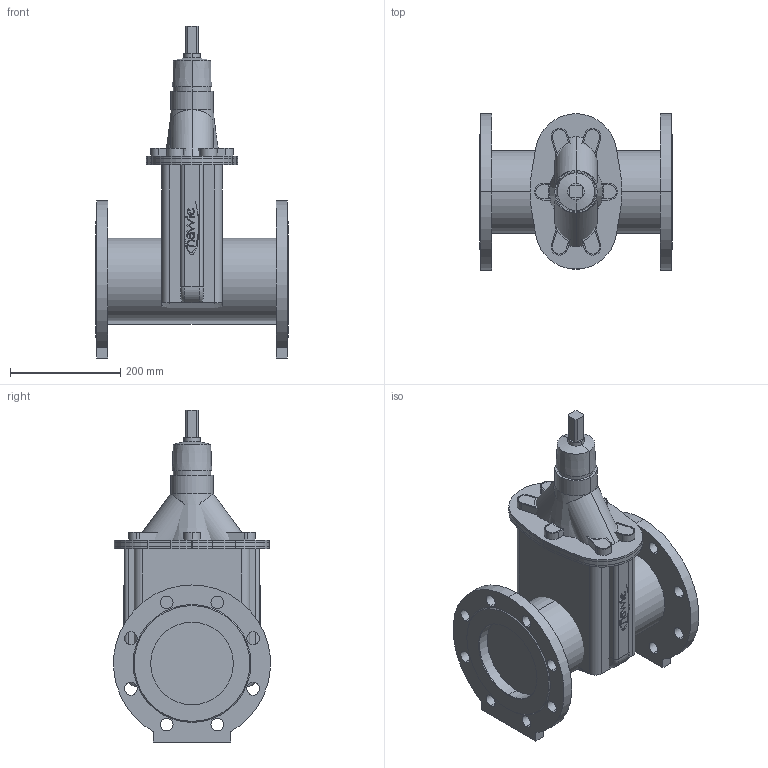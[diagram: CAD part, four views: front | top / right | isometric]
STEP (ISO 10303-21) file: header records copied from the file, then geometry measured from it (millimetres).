
FILE_DESCRIPTION(('STEP AP214'),'1');
FILE_NAME('S:/EK/USER/CAT6/3DHomepage/4700E2/4700E2-PN16-DN150.STP','2012-04-23T12:26:28',(' '),(' '),'Spatial InterOp 3D',' ',' ');
FILE_SCHEMA(('automotive_design'));
Length unit declared in the file: millimetre
Products named in the file (51): 3D-Objekt
Bounding box: 350 x 284.27 x 602.5 mm (x, y, z)
Volume: 15734812.5 mm3; surface area: 1256906.7 mm2
Topology: 51 solids, 51 shells, 473 faces, 1107 edges, 738 vertices
Faces by surface type: plane 248, cylinder 207, cone 10, torus 4, bspline 4
Entity records: 18774 total; most frequent: DIRECTION 2601, CARTESIAN_POINT 2437, ORIENTED_EDGE 2214, EDGE_CURVE 1107, AXIS2_PLACEMENT_3D 974, VERTEX_POINT 738, LINE 653, VECTOR 653
